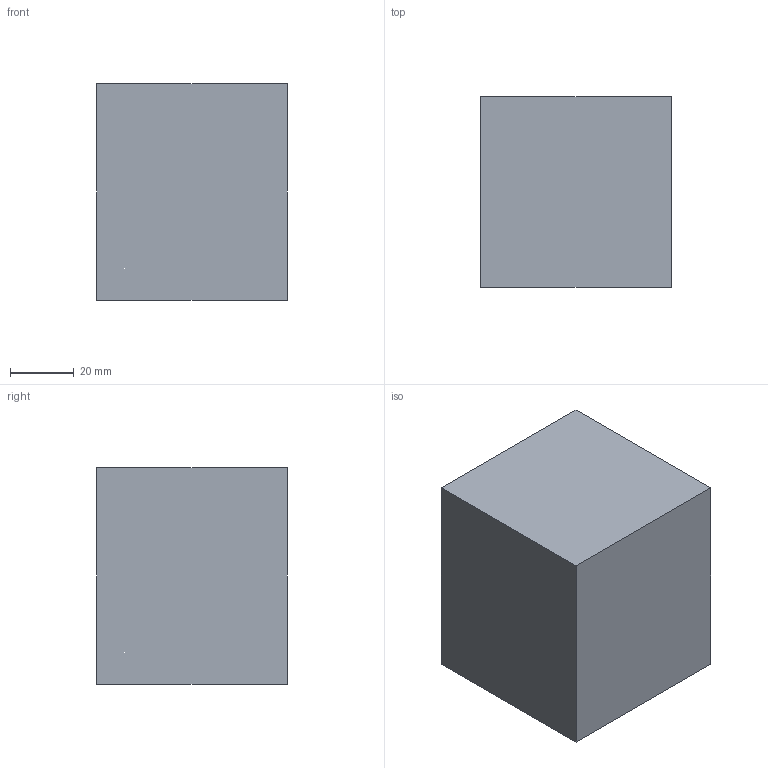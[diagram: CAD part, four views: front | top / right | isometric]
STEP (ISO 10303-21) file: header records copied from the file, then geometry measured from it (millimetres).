
FILE_DESCRIPTION(('Open CASCADE Model'),'2;1');
FILE_NAME('Open CASCADE Shape Model','2026-10-04T02:31:35',('Author'),( 'Open CASCADE'),'Open CASCADE STEP processor 8.0','Open CASCADE 8.0' ,'Unknown');
FILE_SCHEMA(('AUTOMOTIVE_DESIGN { 1 0 10303 214 1 1 1 1 }'));
Length unit declared in the file: millimetre
Products named in the file (1): Open CASCADE STEP translator 8.0 71
Bounding box: 60 x 60 x 68 mm (x, y, z)
Volume: 244800 mm3; surface area: 23520 mm2
Topology: 1 solids, 1 shells, 6 faces, 12 edges, 8 vertices
Faces by surface type: plane 6
Entity records: 322 total; most frequent: CARTESIAN_POINT 51, DIRECTION 50, LINE 36, VECTOR 36, ORIENTED_EDGE 24, PCURVE 24, DEFINITIONAL_REPRESENTATION 24, EDGE_CURVE 12
